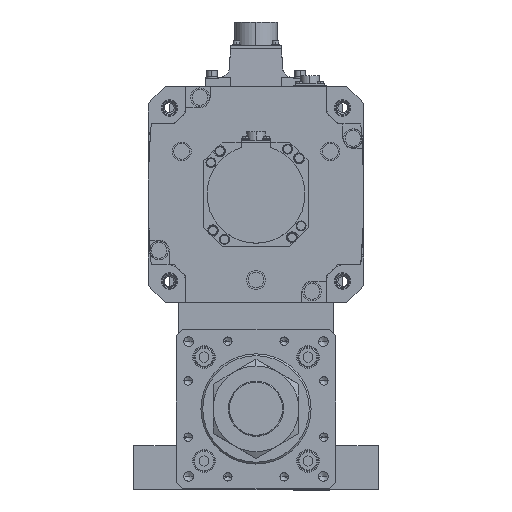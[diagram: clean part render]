
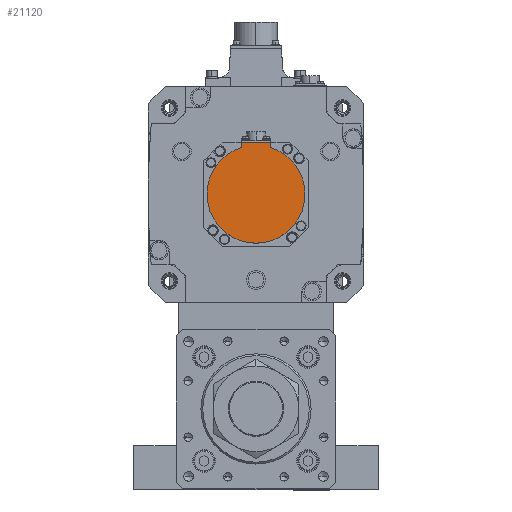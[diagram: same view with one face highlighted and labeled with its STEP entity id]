
A CAD part, top view. The second image highlights one B-rep face of the part: STEP entity #21120.
In plain terms, the highlighted planar face has unit normal (0, 0, 1) as drawn and (0, 0, -1) by its records, which use the part's own axes.
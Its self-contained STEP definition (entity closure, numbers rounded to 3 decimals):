
#1126 = CARTESIAN_POINT ( 'NONE',  ( -12., -38.158, -188. ) ) ;
#1974 = AXIS2_PLACEMENT_3D ( 'NONE', #29139, #42093, #11744 ) ;
#2626 = VECTOR ( 'NONE', #8254, 1000. ) ;
#3271 = AXIS2_PLACEMENT_3D ( 'NONE', #29845, #51444, #52007 ) ;
#3963 = CARTESIAN_POINT ( 'NONE',  ( -12., -40.329, -188. ) ) ;
#8254 = DIRECTION ( 'NONE',  ( 0., 1., 0. ) ) ;
#10769 = DIRECTION ( 'NONE',  ( 0., 0., 1. ) ) ;
#11744 = DIRECTION ( 'NONE',  ( 1., 0., 0. ) ) ;
#12069 = CARTESIAN_POINT ( 'NONE',  ( 12., -38.158, -188. ) ) ;
#12648 = ORIENTED_EDGE ( 'NONE', *, *, #31040, .T. ) ;
#16573 = LINE ( 'NONE', #26687, #44891 ) ;
#17373 = EDGE_CURVE ( 'NONE', #29081, #45261, #27471, .T. ) ;
#17402 = DIRECTION ( 'NONE',  ( 0., 1., 0. ) ) ;
#18110 = EDGE_CURVE ( 'NONE', #29081, #23403, #16573, .T. ) ;
#18998 = CARTESIAN_POINT ( 'NONE',  ( 40., 0., -188. ) ) ;
#20436 = EDGE_CURVE ( 'NONE', #49221, #53355, #43021, .T. ) ;
#21120 = ADVANCED_FACE ( 'NONE', ( #47701 ), #51811, .F. ) ;
#21536 = VERTEX_POINT ( 'NONE', #18998 ) ;
#21969 = ORIENTED_EDGE ( 'NONE', *, *, #20436, .F. ) ;
#23403 = VERTEX_POINT ( 'NONE', #12069 ) ;
#24686 = DIRECTION ( 'NONE',  ( 1., 0., 0. ) ) ;
#24790 = CARTESIAN_POINT ( 'NONE',  ( 12., -42.5, -188. ) ) ;
#24884 = CIRCLE ( 'NONE', #48268, 40. ) ;
#26687 = CARTESIAN_POINT ( 'NONE',  ( 12., -1.249, -188. ) ) ;
#27443 = CARTESIAN_POINT ( 'NONE',  ( 0., 0., -188. ) ) ;
#27471 = LINE ( 'NONE', #31292, #53047 ) ;
#29081 = VERTEX_POINT ( 'NONE', #24790 ) ;
#29139 = CARTESIAN_POINT ( 'NONE',  ( 0., 0., -188. ) ) ;
#29845 = CARTESIAN_POINT ( 'NONE',  ( 0., -1.249, -188. ) ) ;
#30368 = EDGE_CURVE ( 'NONE', #21536, #49221, #55289, .T. ) ;
#31040 = EDGE_CURVE ( 'NONE', #45261, #53355, #44410, .T. ) ;
#31292 = CARTESIAN_POINT ( 'NONE',  ( 0., -42.5, -188. ) ) ;
#31946 = DIRECTION ( 'NONE',  ( 1., 0., 0. ) ) ;
#34251 = ORIENTED_EDGE ( 'NONE', *, *, #17373, .T. ) ;
#35194 = ORIENTED_EDGE ( 'NONE', *, *, #50915, .F. ) ;
#38281 = AXIS2_PLACEMENT_3D ( 'NONE', #41420, #54041, #24686 ) ;
#38458 = ORIENTED_EDGE ( 'NONE', *, *, #18110, .F. ) ;
#41420 = CARTESIAN_POINT ( 'NONE',  ( 0., 0., -188. ) ) ;
#41724 = CARTESIAN_POINT ( 'NONE',  ( -40., 0., -188. ) ) ;
#42093 = DIRECTION ( 'NONE',  ( 0., 0., 1. ) ) ;
#42361 = CARTESIAN_POINT ( 'NONE',  ( -12., -42.5, -188. ) ) ;
#43021 = CIRCLE ( 'NONE', #38281, 40. ) ;
#43315 = ORIENTED_EDGE ( 'NONE', *, *, #30368, .F. ) ;
#44410 = LINE ( 'NONE', #3963, #2626 ) ;
#44891 = VECTOR ( 'NONE', #17402, 1000. ) ;
#45261 = VERTEX_POINT ( 'NONE', #42361 ) ;
#47701 = FACE_OUTER_BOUND ( 'NONE', #53813, .T. ) ;
#48268 = AXIS2_PLACEMENT_3D ( 'NONE', #27443, #10769, #31946 ) ;
#49221 = VERTEX_POINT ( 'NONE', #41724 ) ;
#50915 = EDGE_CURVE ( 'NONE', #23403, #21536, #24884, .T. ) ;
#51444 = DIRECTION ( 'NONE',  ( 0., 0., 1. ) ) ;
#51811 = PLANE ( 'NONE',  #3271 ) ;
#52007 = DIRECTION ( 'NONE',  ( 1., 0., 0. ) ) ;
#52535 = DIRECTION ( 'NONE',  ( -1., 0., 0. ) ) ;
#53047 = VECTOR ( 'NONE', #52535, 1000. ) ;
#53355 = VERTEX_POINT ( 'NONE', #1126 ) ;
#53813 = EDGE_LOOP ( 'NONE', ( #12648, #21969, #43315, #35194, #38458, #34251 ) ) ;
#54041 = DIRECTION ( 'NONE',  ( 0., 0., 1. ) ) ;
#55289 = CIRCLE ( 'NONE', #1974, 40. ) ;
